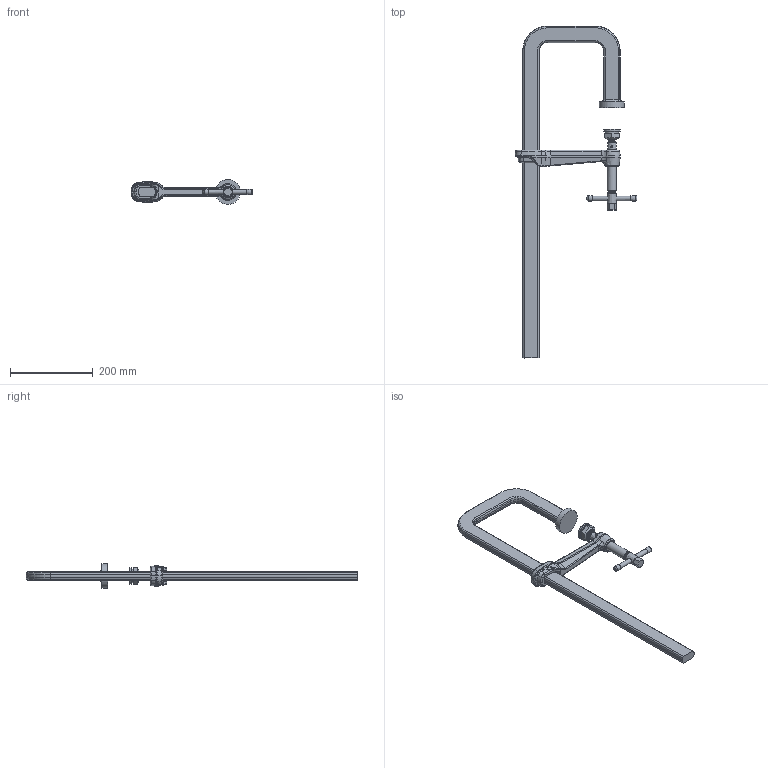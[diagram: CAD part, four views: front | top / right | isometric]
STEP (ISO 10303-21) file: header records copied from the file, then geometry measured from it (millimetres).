
FILE_DESCRIPTION( ('This file contains a STEP AP42 implementation' ,'as created by ZW3D STEP Interface translator.') ,'2;1' );
FILE_NAME( '4800J-20.stp' ,'18 9 6. 9 613', (''), ('ZWCAD Software Co.'), 'Version 1.0', 'ZW3D to STEP translator', '' );
FILE_SCHEMA( ('CONFIG_CONTROL_DESIGN') );
Length unit declared in the file: millimetre
Products named in the file (15): 0; STBU40-17-15; 3101042a_Festbügel STBU50-17-15 geschweißt einfach; Gleitbügel STB; 3000162t_Rohlg STB; Spindel kpl.; 3000114_Spindel_STBeinfach; Knebel; 3100123_Spindel_kpl_SGM; Druckplatte; 3100211f_Druckpl_kpl_SGL_Sinter; 3007071_Bolzen_HLZ; Druckbackeneinsatz_1; 3007069_Druckplatte_SG; 3007072a_Mutter HLZ neu
Assembly tree (13 placements, depth 6):
  0
  STBU40-17-15
    3101042a_Festbügel STBU50-17-15 geschweißt einfach
    Gleitbügel STB
      3000162t_Rohlg STB
      Spindel kpl.
        3000114_Spindel_STBeinfach
        Knebel
          3100123_Spindel_kpl_SGM
        Druckplatte
          3100211f_Druckpl_kpl_SGL_Sinter
            3007071_Bolzen_HLZ
            Druckbackeneinsatz_1
            3007069_Druckplatte_SG
            3007072a_Mutter HLZ neu
Bounding box: 293 x 800.07 x 59.95 mm (x, y, z)
Volume: 1156257.3 mm3; surface area: 192761.7 mm2
Topology: 8 solids, 8 shells, 1008 faces, 3148 edges, 2669 vertices
Faces by surface type: bspline 1008
Entity records: 43169 total; most frequent: CARTESIAN_POINT 24977, ORIENTED_EDGE 5334, B_SPLINE_CURVE_WITH_KNOTS 2729, EDGE_CURVE 2667, VERTEX_POINT 1708, EDGE_LOOP 1057, FACE_OUTER_BOUND 1008, ADVANCED_FACE 1008
